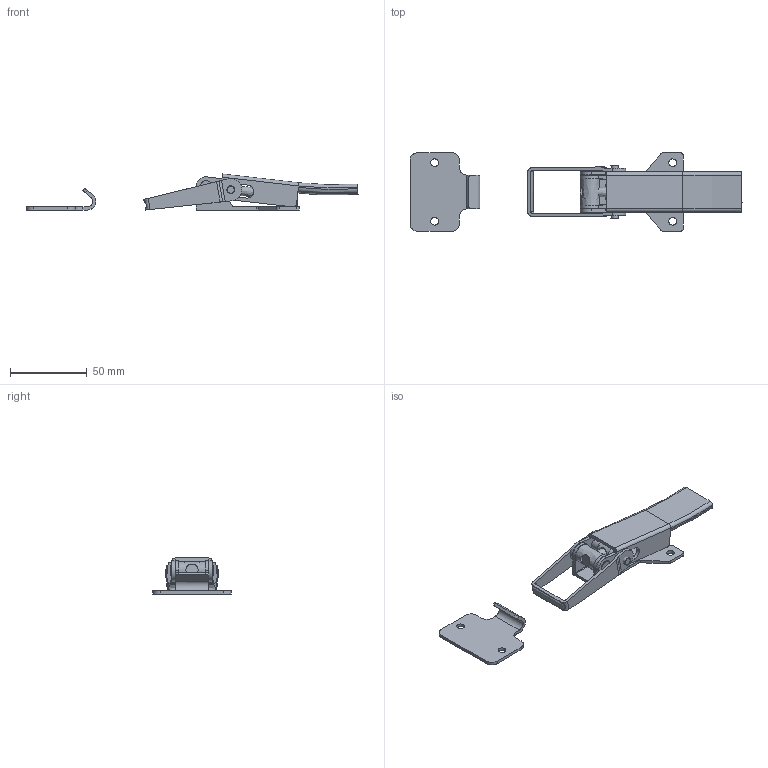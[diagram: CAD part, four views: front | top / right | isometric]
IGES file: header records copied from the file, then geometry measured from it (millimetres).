
Global section: file name: DR_C-M72; native system: Autodesk Inventor 2015; preprocessor: unknown; author: Administrator; date: 20180301.155231; units: millimetre
Bounding box: 215.6 x 51 x 23.39 mm (x, y, z)
Volume: 27163.9 mm3; surface area: 27966.4 mm2
Topology: 5 solids, 5 shells, 201 faces, 534 edges, 352 vertices
Faces by surface type: bspline 201
